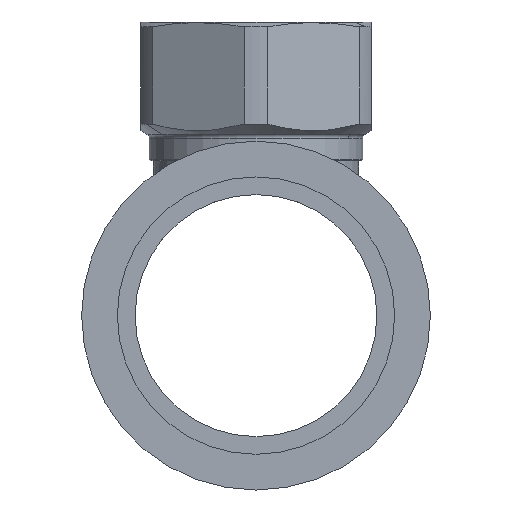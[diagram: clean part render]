
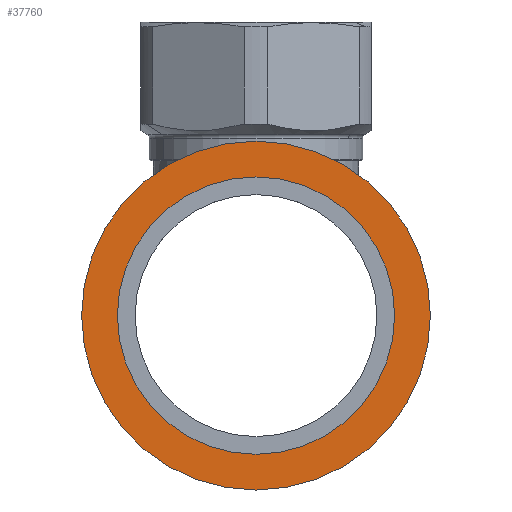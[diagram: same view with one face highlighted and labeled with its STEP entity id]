
A CAD part, left-side view. The second image highlights one B-rep face of the part: STEP entity #37760.
In plain terms, the highlighted planar face has unit normal (-1, 0, 0).
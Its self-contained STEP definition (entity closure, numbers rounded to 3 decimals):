
#37280=CARTESIAN_POINT('',(18.834,40.179,0.))
;
#37290=VERTEX_POINT('',#37280);
#37320=CARTESIAN_POINT('',(18.834,64.829,0.))
;
#37330=DIRECTION('',(1.,0.,0.));
#37340=DIRECTION('',(0.,1.,0.));
#37350=AXIS2_PLACEMENT_3D('',#37320,#37330,#37340);
#37360=CIRCLE('',#37350,24.65);
#37370=CARTESIAN_POINT('',(18.834,89.479,0.)
);
#37380=VERTEX_POINT('',#37370);
#37390=EDGE_CURVE('',#37290,#37380,#37360,.T.);
#37510=CARTESIAN_POINT('',(18.834,94.129,0.)
);
#37520=DIRECTION('',(1.,-0.,0.));
#37530=DIRECTION('',(0.,1.,0.));
#37540=AXIS2_PLACEMENT_3D('',#37510,#37520,#37530);
#37550=PLANE('',#37540);
#37560=EDGE_CURVE('',#37380,#37290,#37360,.T.);
#37570=ORIENTED_EDGE('',*,*,#37560,.T.);
#37580=ORIENTED_EDGE('',*,*,#37390,.T.);
#37590=EDGE_LOOP('',(#37580,#37570));
#37600=FACE_BOUND('',#37590,.T.);
#37610=CARTESIAN_POINT('',(18.834,64.829,0.))
;
#37620=DIRECTION('',(1.,0.,0.));
#37630=DIRECTION('',(0.,-1.,0.));
#37640=AXIS2_PLACEMENT_3D('',#37610,#37620,#37630);
#37650=CIRCLE('',#37640,31.);
#37660=CARTESIAN_POINT('',(18.834,33.829,
0.));
#37670=VERTEX_POINT('',#37660);
#37680=CARTESIAN_POINT('',(18.834,95.829,
0.));
#37690=VERTEX_POINT('',#37680);
#37700=EDGE_CURVE('',#37670,#37690,#37650,.T.);
#37710=ORIENTED_EDGE('',*,*,#37700,.F.);
#37720=EDGE_CURVE('',#37690,#37670,#37650,.T.);
#37730=ORIENTED_EDGE('',*,*,#37720,.F.);
#37740=EDGE_LOOP('',(#37730,#37710));
#37750=FACE_OUTER_BOUND('',#37740,.T.);
#37760=ADVANCED_FACE('',(#37600,#37750),#37550,.F.);
